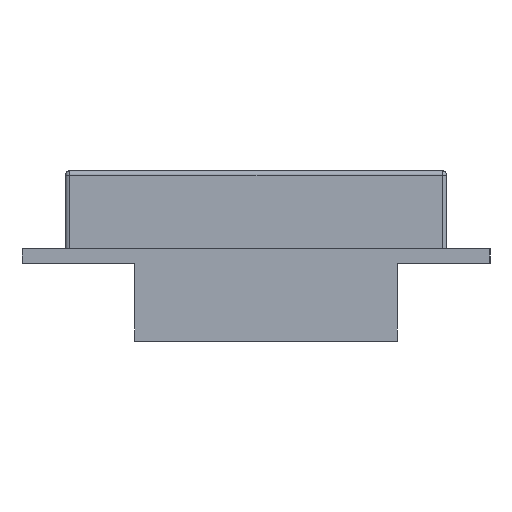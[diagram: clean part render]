
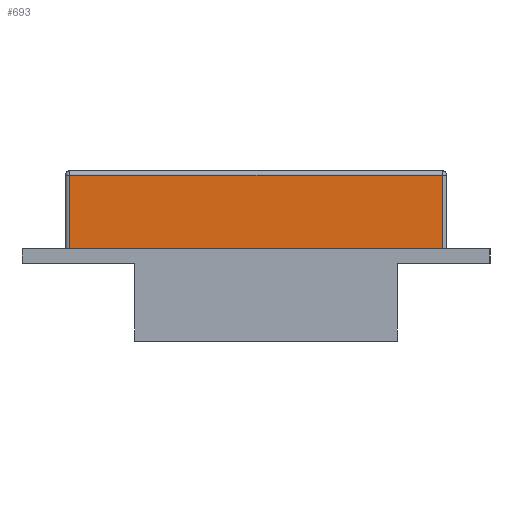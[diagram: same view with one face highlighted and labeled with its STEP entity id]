
A CAD part, left-side view. The second image highlights one B-rep face of the part: STEP entity #693.
In plain terms, the highlighted planar face has unit normal (-1, 0, 0).
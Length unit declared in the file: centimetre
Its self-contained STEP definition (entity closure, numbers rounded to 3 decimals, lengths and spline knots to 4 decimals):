
#226=VERTEX_POINT('',#2698);
#228=VERTEX_POINT('',#2703);
#234=VERTEX_POINT('',#2724);
#237=VERTEX_POINT('',#2731);
#288=EDGE_CURVE('',#228,#226,#1347,.T.);
#303=EDGE_CURVE('',#234,#237,#1354,.T.);
#314=EDGE_CURVE('',#226,#234,#1361,.T.);
#331=EDGE_CURVE('',#237,#228,#1374,.T.);
#460=ORIENTED_EDGE('',*,*,#288,.F.);
#461=ORIENTED_EDGE('',*,*,#331,.F.);
#462=ORIENTED_EDGE('',*,*,#303,.F.);
#463=ORIENTED_EDGE('',*,*,#314,.F.);
#582=EDGE_LOOP('',(#460,#461,#462,#463));
#638=FACE_BOUND('',#582,.T.);
#693=ADVANCED_FACE('',(#638),#2114,.T.);
#1347=LINE('',#2704,#2036);
#1354=LINE('',#2734,#2043);
#1361=LINE('',#2755,#2050);
#1374=LINE('',#2790,#2063);
#1917=AXIS2_PLACEMENT_3D('',#2789,#2421,$);
#2036=VECTOR('',#2329,1.);
#2043=VECTOR('',#2362,1.);
#2050=VECTOR('',#2387,1.);
#2063=VECTOR('',#2422,1.);
#2114=PLANE('',#1917);
#2329=DIRECTION('',(0.,0.,1.));
#2362=DIRECTION('',(0.,0.,-1.));
#2387=DIRECTION('',(0.,-1.,0.));
#2421=DIRECTION('',(-1.,0.,0.));
#2422=DIRECTION('',(0.,1.,0.));
#2698=CARTESIAN_POINT('',(0.1,3.78,1.915));
#2703=CARTESIAN_POINT('',(0.1,3.78,1.065));
#2704=CARTESIAN_POINT('',(0.1,3.78,1.065));
#2724=CARTESIAN_POINT('',(0.1,-0.52,1.915));
#2731=CARTESIAN_POINT('',(0.1,-0.52,1.065));
#2734=CARTESIAN_POINT('',(0.1,-0.52,1.065));
#2755=CARTESIAN_POINT('',(0.1,1.63,1.915));
#2789=CARTESIAN_POINT('',(0.1,1.63,1.065));
#2790=CARTESIAN_POINT('',(0.1,1.63,1.065));
